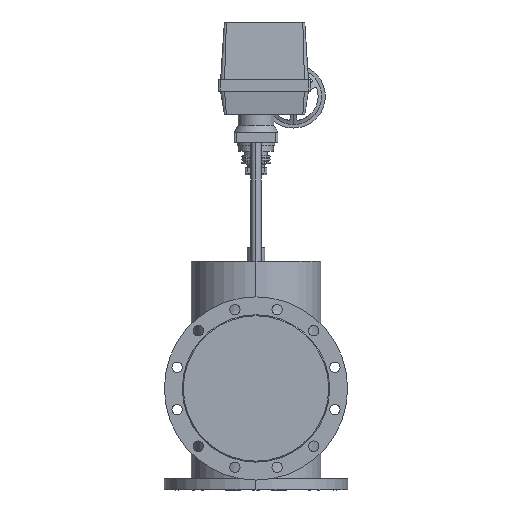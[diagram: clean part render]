
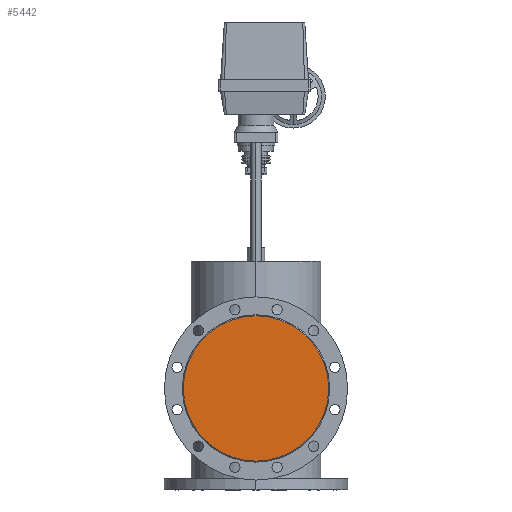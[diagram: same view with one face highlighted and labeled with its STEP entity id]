
A CAD part, left-side view. The second image highlights one B-rep face of the part: STEP entity #5442.
In plain terms, the highlighted planar face has unit normal (-1, 0, 0).
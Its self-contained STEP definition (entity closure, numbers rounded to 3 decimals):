
#1330=FACE_OUTER_BOUND('',#1703,.T.);
#1703=EDGE_LOOP('',(#4552,#4553));
#2082=CIRCLE('',#6069,182.5);
#2083=CIRCLE('',#6070,182.5);
#2533=VERTEX_POINT('',#10204);
#2534=VERTEX_POINT('',#10205);
#3217=EDGE_CURVE('',#2533,#2534,#2082,.T.);
#3218=EDGE_CURVE('',#2534,#2533,#2083,.T.);
#4552=ORIENTED_EDGE('',*,*,#3217,.T.);
#4553=ORIENTED_EDGE('',*,*,#3218,.T.);
#4840=PLANE('',#6068);
#5442=ADVANCED_FACE('',(#1330),#4840,.T.);
#6068=AXIS2_PLACEMENT_3D('',#10203,#7577,#7578);
#6069=AXIS2_PLACEMENT_3D('',#10206,#7579,#7580);
#6070=AXIS2_PLACEMENT_3D('',#10207,#7581,#7582);
#7577=DIRECTION('center_axis',(-1.,0.,0.));
#7578=DIRECTION('ref_axis',(0.,-1.,0.));
#7579=DIRECTION('center_axis',(-1.,0.,0.));
#7580=DIRECTION('ref_axis',(0.,0.,
1.));
#7581=DIRECTION('center_axis',(-1.,0.,0.));
#7582=DIRECTION('ref_axis',(0.,0.,
-1.));
#10203=CARTESIAN_POINT('Origin',(-349.,0.,0.));
#10204=CARTESIAN_POINT('',(-349.,0.,182.5));
#10205=CARTESIAN_POINT('',(-349.,0.,-182.5));
#10206=CARTESIAN_POINT('Origin',(-349.,0.,0.));
#10207=CARTESIAN_POINT('Origin',(-349.,0.,0.));
